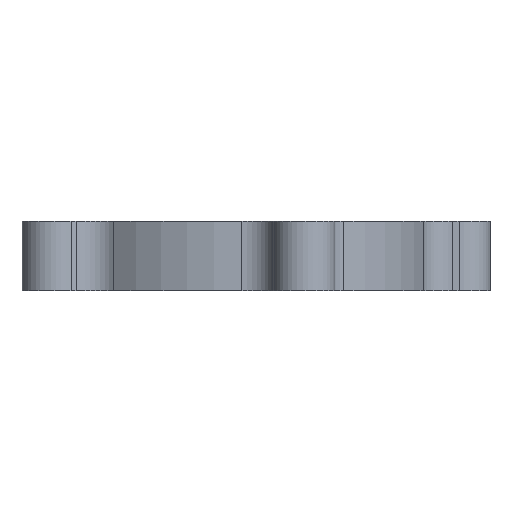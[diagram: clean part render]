
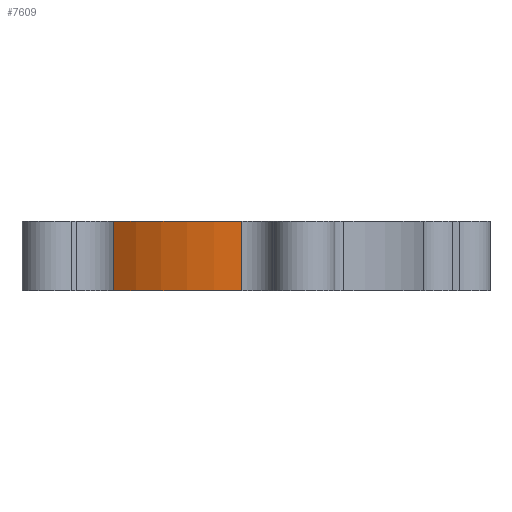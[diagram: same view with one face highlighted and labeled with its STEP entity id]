
A CAD part, left-side view. The second image highlights one B-rep face of the part: STEP entity #7609.
In plain terms, the highlighted cylindrical face has radius 30.163 mm (diameter 60.325 mm), a partial arc.
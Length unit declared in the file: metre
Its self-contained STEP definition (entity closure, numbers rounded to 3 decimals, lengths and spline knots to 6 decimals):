
#469=LINE('',#10765,#1023);
#470=LINE('',#10769,#1024);
#1023=VECTOR('',#8774,1.);
#1024=VECTOR('',#8777,1.);
#1581=ORIENTED_EDGE('',*,*,#4049,.T.);
#1582=ORIENTED_EDGE('',*,*,#4050,.T.);
#1583=ORIENTED_EDGE('',*,*,#4051,.F.);
#1584=ORIENTED_EDGE('',*,*,#4052,.T.);
#4049=EDGE_CURVE('',#5283,#5284,#6105,.T.);
#4050=EDGE_CURVE('',#5284,#5285,#469,.F.);
#4051=EDGE_CURVE('',#5286,#5285,#6106,.F.);
#4052=EDGE_CURVE('',#5286,#5283,#470,.T.);
#5283=VERTEX_POINT('',#10763);
#5284=VERTEX_POINT('',#10764);
#5285=VERTEX_POINT('',#10766);
#5286=VERTEX_POINT('',#10768);
#6105=CIRCLE('',#8042,0.030163);
#6106=CIRCLE('',#8043,0.030163);
#6531=EDGE_LOOP('',(#1581,#1582,#1583,#1584));
#6963=FACE_BOUND('',#6531,.T.);
#7395=CYLINDRICAL_SURFACE('',#8041,0.030163);
#7609=ADVANCED_FACE('',(#6963),#7395,.T.);
#8041=AXIS2_PLACEMENT_3D('',#10761,#8770,#8771);
#8042=AXIS2_PLACEMENT_3D('',#10762,#8772,#8773);
#8043=AXIS2_PLACEMENT_3D('',#10767,#8775,#8776);
#8770=DIRECTION('',(0.,0.,-1.));
#8771=DIRECTION('',(-1.,0.,0.));
#8772=DIRECTION('',(0.,0.,1.));
#8773=DIRECTION('',(1.,0.,0.));
#8774=DIRECTION('',(0.,0.,-1.));
#8775=DIRECTION('',(0.,0.,-1.));
#8776=DIRECTION('',(-1.,0.,0.));
#8777=DIRECTION('',(0.,0.,-1.));
#10761=CARTESIAN_POINT('',(0.,0.,0.057625));
#10762=CARTESIAN_POINT('',(0.,0.,0.044925));
#10763=CARTESIAN_POINT('',(-0.023712,0.018642,0.044925));
#10764=CARTESIAN_POINT('',(-0.030141,-0.001144,0.044925));
#10765=CARTESIAN_POINT('',(-0.030141,-0.001144,0.057625));
#10766=CARTESIAN_POINT('',(-0.030141,-0.001144,0.055641));
#10767=CARTESIAN_POINT('',(0.,0.,0.055641));
#10768=CARTESIAN_POINT('',(-0.023712,0.018642,0.055641));
#10769=CARTESIAN_POINT('',(-0.023712,0.018642,0.057625));
